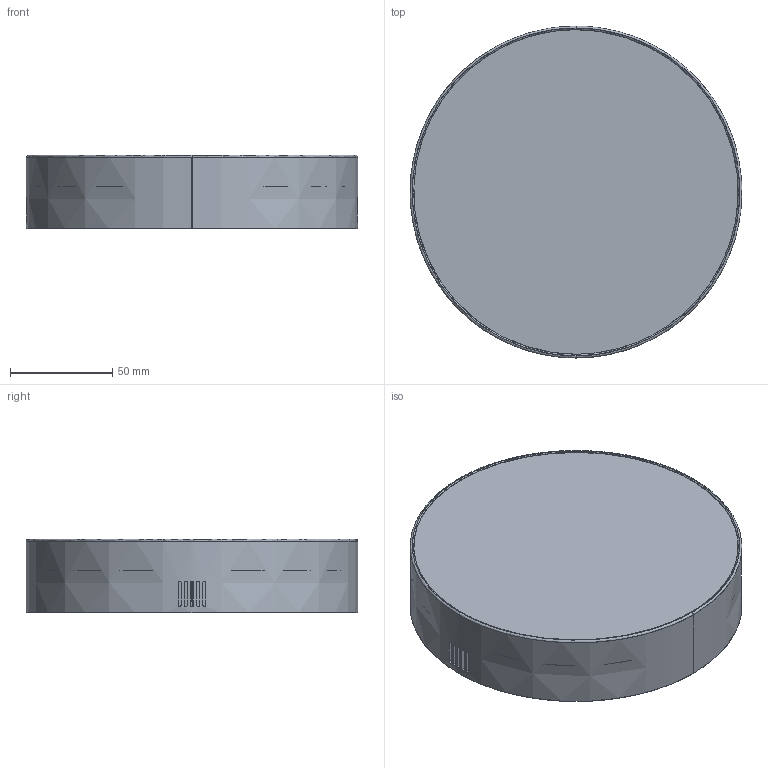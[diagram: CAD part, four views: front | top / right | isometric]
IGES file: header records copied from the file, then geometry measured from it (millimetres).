
Start section: SolidWorks IGES file using analytic representation for surfaces
Global section: file name: C:\Users\anna.bielnik\Desktop\modele 3D tymczasowe\LID ROUND LED\Z³o¿enie LID ROUND LED 25W 5.IGS; native system: SolidWorks 2023; preprocessor: SolidWorks 2023; author: anna.bielnik; date: 230706.125959; units: millimetre
Bounding box: 162 x 162 x 36 mm (x, y, z)
Surface area: 170332.4 mm2 (no closed solid volume)
Topology: 0 solids, 0 shells, 75 faces, 1600 edges, 1600 vertices
Faces by surface type: revolution 38, bspline 37
